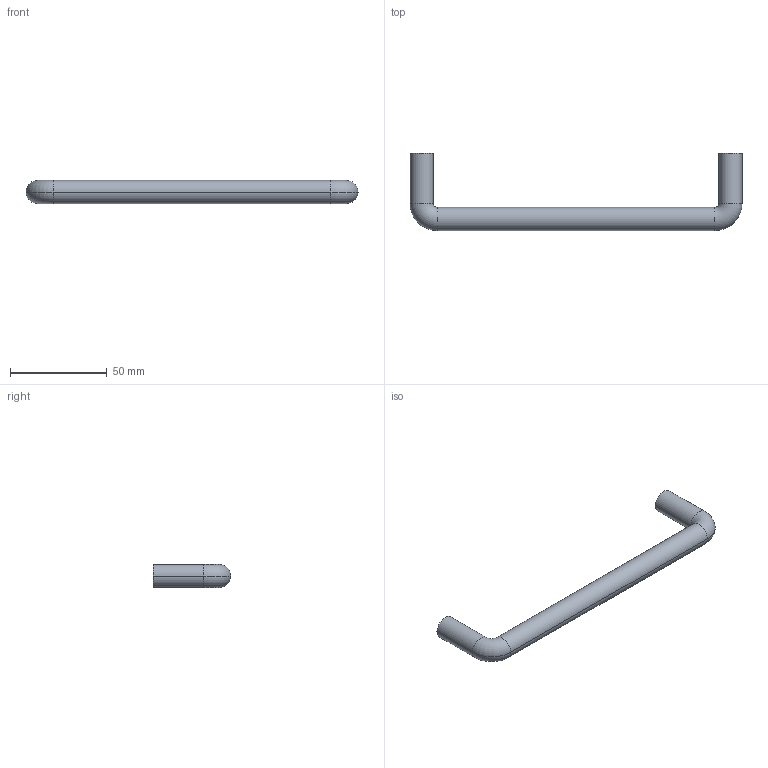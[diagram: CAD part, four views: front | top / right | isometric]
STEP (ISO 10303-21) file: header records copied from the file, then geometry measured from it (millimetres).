
FILE_DESCRIPTION( ( '' ), '1' );
FILE_NAME( 'C:/Documents and Settings/Sachin/Desktop/Sheet 10_1/stp/9070117.stp', '2013-10-22T07:24:21', ( '' ), ( '' ), ' ', ' ', ' ' );
FILE_SCHEMA( ( 'CONFIG_CONTROL_DESIGN' ) );
Length unit declared in the file: millimetre
Products named in the file (1): 1
Bounding box: 172 x 40 x 12 mm (x, y, z)
Volume: 24758.2 mm3; surface area: 8814 mm2
Topology: 1 solids, 1 shells, 18 faces, 34 edges, 20 vertices
Faces by surface type: cylinder 10, torus 4, plane 4
Entity records: 502 total; most frequent: DIRECTION 96, CARTESIAN_POINT 73, ORIENTED_EDGE 68, AXIS2_PLACEMENT_3D 43, EDGE_CURVE 34, CIRCLE 24, EDGE_LOOP 20, VERTEX_POINT 20
